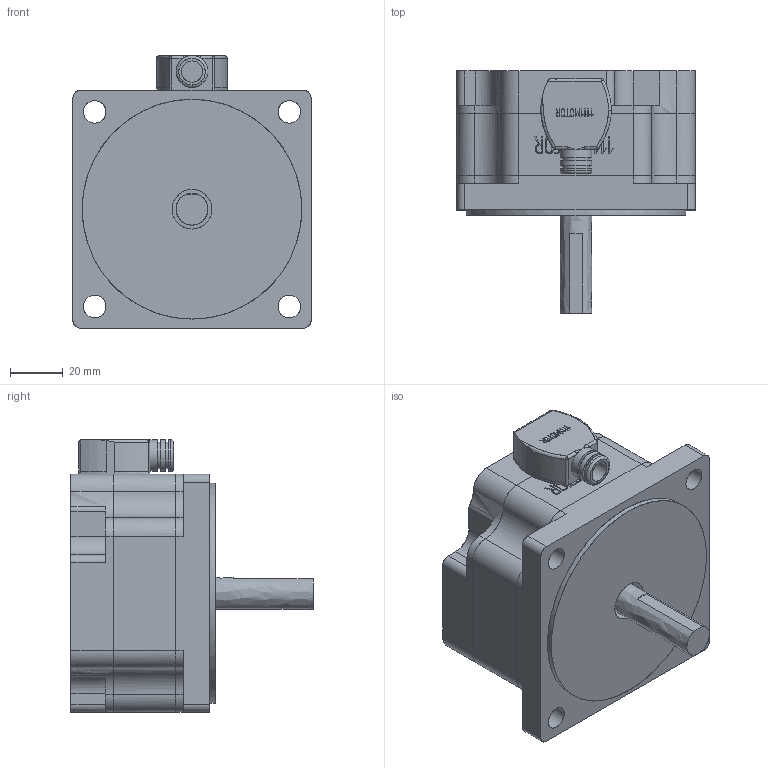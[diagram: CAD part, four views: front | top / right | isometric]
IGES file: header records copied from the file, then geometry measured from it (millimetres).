
Start section: C
Global section: file name: BL90X.igs; native system: By Siemens PLM Incorporated; preprocessor: XPlus GENERIC/IGES 17.0.49; author: Author; organization: Title; date: 20170219.230502; units: millimetre
Bounding box: 90 x 91.5 x 103 mm (x, y, z)
Surface area: 70029.9 mm2 (no closed solid volume)
Topology: 0 solids, 0 shells, 315 faces, 1986 edges, 1981 vertices
Faces by surface type: bspline 315
